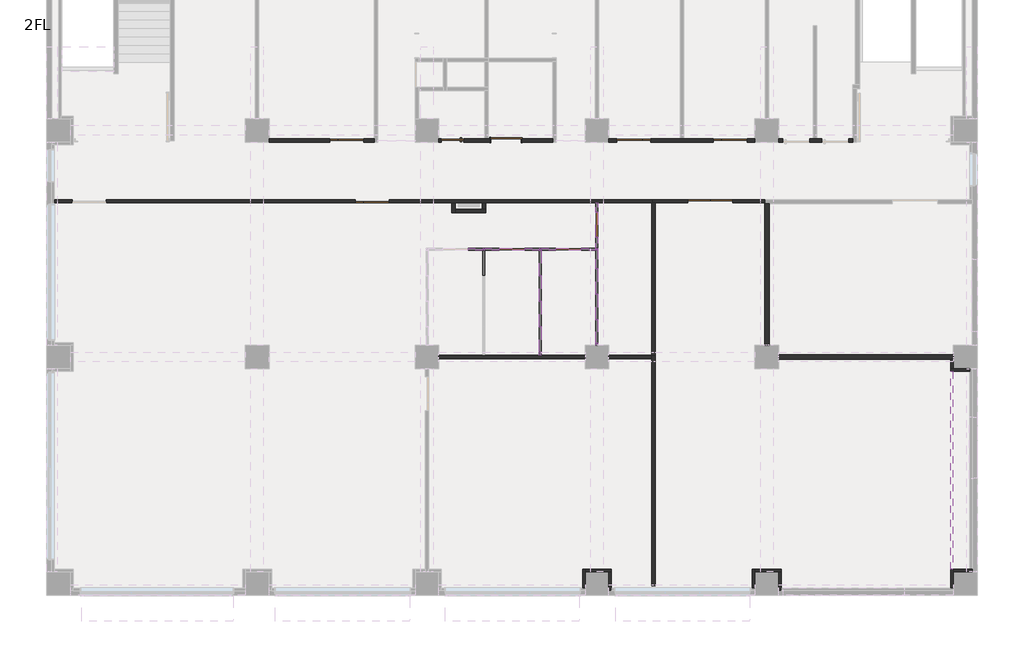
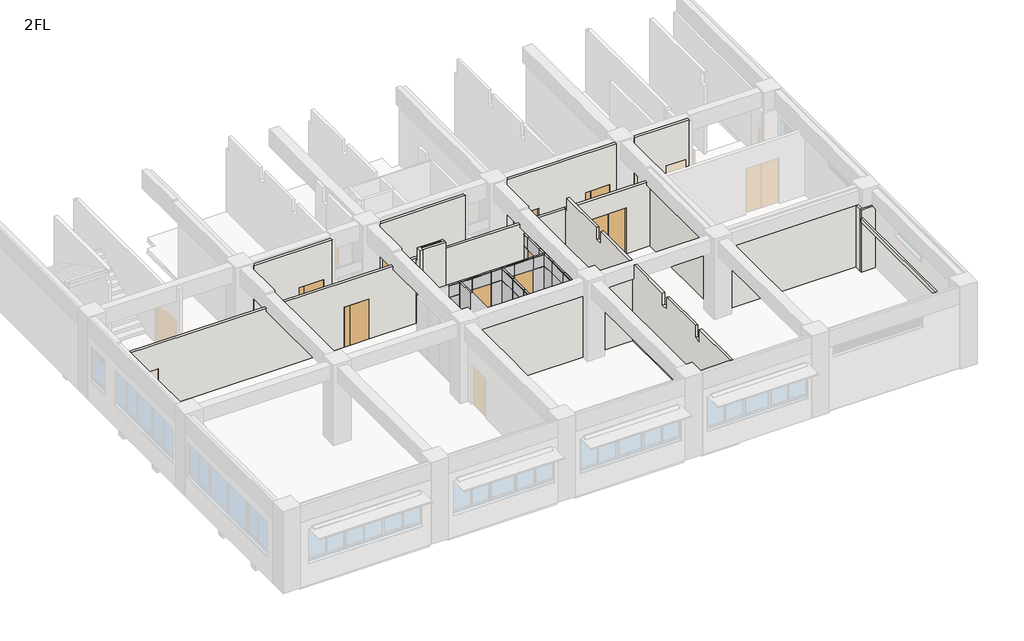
# One storey, part 2 of 7: 37 plates, 24 walls, 16 members, 10 doors.
"""IFC4 building model written with IfcOpenShell, lengths in millimetres."""

from ifc_helpers import new_model, si_unit, frame, origin, place, context, project, spatial, polyline, outline, extrude, faceted_brep, transform, mapped, element, save
from components import door_48d1ee04, door_18b0804b, door_c235f466, door_db44657f, door_7458d189, pt1_1e1990d0, member_b4131282, member_8fee23aa, plate_1920d3b0, plate_79e9bfaa, plate_647bdfd9, plate_5b77f55f, plate_b62a782f, plate_d5ff2d27, plate_b2ca1a00, plate_44eb6428, plate_b9e99dd6, plate_7cd72466, plate_84f50978, plate_53a28b3e, plate_90ae5f52, plate_9f777739, pt_5_5902302a, pt_5_33d2815e

model = new_model("IFC4")

# Units and contexts
model_context = context("Model", 3, world=origin())
ifc_project = project(units=[si_unit("LENGTHUNIT", "METRE", prefix="MILLI")], contexts=[model_context])

# Site, building, storey
site = spatial("IfcSite", under=ifc_project)
building = spatial("IfcBuilding", under=site)
storey = spatial("IfcBuildingStorey", under=building, Name="2FL", Elevation=4100.0)

# Doors
placement = place(None, origin())
door_shape = door_48d1ee04(model_context)
element("IfcDoor", 1, ObjectType="営_片開き扉 : LD11 850*2000", at=placement, inside=storey, context=model_context, shape_type="MappedRepresentation", body=[
    mapped(door_shape, transform((13900.0, 15640.0, 4100.0), x_axis=(-1.0, 0.0, 0.0), y_axis=(0.0, -1.0, 0.0), z_axis=(0.0, 0.0, 1.0))),
])
door_2_shape = door_18b0804b(model_context)
element("IfcDoor", 2, ObjectType="営_親子扉 : LD2 1200*2000", at=placement, inside=storey, context=model_context, shape_type="MappedRepresentation", body=[
    mapped(door_2_shape, transform((23700.0, 15640.0, 4100.0), x_axis=(1.0, 0.0, 0.0), y_axis=(0.0, 1.0, 0.0), z_axis=(0.0, 0.0, 1.0))),
])
door_3_shape = door_c235f466(model_context)
element("IfcDoor", 3, ObjectType="営_親子扉 : LD2 1200*2000", at=placement, inside=storey, context=model_context, shape_type="MappedRepresentation", body=[
    mapped(door_3_shape, transform((11065.0, 13500.0, 4100.0), x_axis=(1.0, 0.0, 0.0), y_axis=(0.0, 1.0, 0.0), z_axis=(0.0, 0.0, 1.0))),
])
element("IfcDoor", 4, ObjectType="営_親子扉 : LD2 1200*2000", at=placement, inside=storey, context=model_context, shape_type="MappedRepresentation", body=[
    mapped(door_3_shape, transform((20300.0, 15640.0, 4100.0), x_axis=(-1.0, 0.0, 0.0), y_axis=(0.0, -1.0, 0.0), z_axis=(0.0, 0.0, 1.0))),
])
element("IfcDoor", 5, ObjectType="営_親子扉 : LD2 1200*2000", at=placement, inside=storey, context=model_context, shape_type="MappedRepresentation", body=[
    mapped(door_2_shape, transform((10162.645491, 15640.0, 4100.0), x_axis=(1.0, 0.0, 0.0), y_axis=(0.0, 1.0, 0.0), z_axis=(0.0, 0.0, 1.0))),
])
door_4_shape = door_db44657f(model_context)
element("IfcDoor", 6, ObjectType="営_両開き扉 : SD3c 1600*2300 2", at=placement, inside=storey, context=model_context, shape_type="MappedRepresentation", body=[
    mapped(door_4_shape, transform((23000.0, 13500.0, 4100.0), x_axis=(-1.0, 0.0, 0.0), y_axis=(0.0, -1.0, 0.0), z_axis=(0.0, 0.0, 1.0))),
])
door_5_shape = door_7458d189(model_context)
element("IfcDoor", 7, ObjectType="営_引戸／引込戸 : LD1 960*2000", at=placement, inside=storey, context=model_context, shape_type="MappedRepresentation", body=[
    mapped(door_5_shape, transform((15800.0, 15640.0, 4100.0), x_axis=(1.0, 0.0, 0.0), y_axis=(0.0, 1.0, 0.0), z_axis=(0.0, 0.0, 1.0))),
])
pt1_shape = pt1_1e1990d0(model_context)
element("IfcDoor", 8, ObjectType="営_パーティションドア : PT3", at=placement, inside=storey, context=model_context, shape_type="MappedRepresentation", body=[
    mapped(pt1_shape, transform((16000.0, 11800.0, 4100.0), x_axis=(-1.0, 0.0, 0.0), y_axis=(0.0, -1.0, 0.0), z_axis=(0.0, 0.0, 1.0))),
])
element("IfcDoor", 9, ObjectType="営_パーティションドア : PT3", at=placement, inside=storey, context=model_context, shape_type="MappedRepresentation", body=[
    mapped(pt1_shape, transform((18000.0, 11800.0, 4100.0), x_axis=(-1.0, 0.0, 0.0), y_axis=(0.0, -1.0, 0.0), z_axis=(0.0, 0.0, 1.0))),
])
element("IfcDoor", 10, ObjectType="営_パーティションドア : PT4", at=placement, inside=storey, context=model_context, shape_type="MappedRepresentation", body=[
    mapped(pt1_shape, transform((19000.0, 12670.0, 4100.0), x_axis=(0.0, -1.0, 0.0), y_axis=(1.0, 0.0, 0.0), z_axis=(0.0, 0.0, 1.0))),
])

# Members
member_shape = member_b4131282(model_context)
element("IfcMember", 11, ObjectType="長方形マリオン : 70*70", at=placement, inside=storey, context=model_context, shape_type="MappedRepresentation", body=[
    mapped(member_shape, transform((17000.0, 11835.0, 4100.0), x_axis=(0.0, 1.0, 0.0), y_axis=(1.0, 0.0, 0.0), z_axis=(0.0, 0.0, -1.0))),
])
element("IfcMember", 12, ObjectType="長方形マリオン : 70*70", at=placement, inside=storey, context=model_context, shape_type="MappedRepresentation", body=[
    mapped(member_shape, transform((19035.0, 11800.0, 4100.0), x_axis=(1.0, 0.0, 0.0), y_axis=(0.0, -1.0, 0.0), z_axis=(0.0, 0.0, -1.0))),
])
element("IfcMember", 13, ObjectType="長方形マリオン : 70*70", at=placement, inside=storey, context=model_context, shape_type="MappedRepresentation", body=[
    mapped(member_shape, transform((15035.0, 11800.0, 4100.0), x_axis=(1.0, 0.0, 0.0), y_axis=(0.0, -1.0, 0.0), z_axis=(0.0, 0.0, -1.0))),
])
element("IfcMember", 14, ObjectType="長方形マリオン : 70*70", at=placement, inside=storey, context=model_context, shape_type="MappedRepresentation", body=[
    mapped(member_shape, transform((17035.0, 11800.0, 4100.0), x_axis=(1.0, 0.0, 0.0), y_axis=(0.0, -1.0, 0.0), z_axis=(0.0, 0.0, -1.0))),
])
member_2_shape = member_8fee23aa(model_context)
element("IfcMember", 15, ObjectType="長方形マリオン : 70*70", at=placement, inside=storey, context=model_context, shape_type="MappedRepresentation", body=[
    mapped(member_2_shape, transform((17000.0, 11835.0, 6200.0), x_axis=(0.0, 1.0, 0.0), y_axis=(1.0, 0.0, 0.0), z_axis=(0.0, 0.0, -1.0))),
])
element("IfcMember", 16, ObjectType="長方形マリオン : 70*70", at=placement, inside=storey, context=model_context, shape_type="MappedRepresentation", body=[
    mapped(member_2_shape, transform((19035.0, 11800.0, 6200.0), x_axis=(1.0, 0.0, 0.0), y_axis=(0.0, -1.0, 0.0), z_axis=(0.0, 0.0, -1.0))),
])
element("IfcMember", 17, ObjectType="長方形マリオン : 70*70", at=placement, inside=storey, context=model_context, shape_type="MappedRepresentation", body=[
    mapped(member_2_shape, transform((15035.0, 11800.0, 6200.0), x_axis=(1.0, 0.0, 0.0), y_axis=(0.0, -1.0, 0.0), z_axis=(0.0, 0.0, -1.0))),
])
element("IfcMember", 18, ObjectType="長方形マリオン : 70*70", at=placement, inside=storey, context=model_context, shape_type="MappedRepresentation", body=[
    mapped(member_2_shape, transform((17035.0, 11800.0, 6200.0), x_axis=(1.0, 0.0, 0.0), y_axis=(0.0, -1.0, 0.0), z_axis=(0.0, 0.0, -1.0))),
])
element("IfcMember", 19, ObjectType="長方形マリオン : 70*70", at=placement, inside=storey, context=model_context, shape_type="MappedRepresentation", body=[
    mapped(member_shape, transform((14965.0, 11800.0, 6200.0), x_axis=(-1.0, 0.0, 0.0), y_axis=(0.0, -1.0, 0.0), z_axis=(0.0, 0.0, 1.0))),
])
element("IfcMember", 20, ObjectType="長方形マリオン : 70*70", at=placement, inside=storey, context=model_context, shape_type="MappedRepresentation", body=[
    mapped(member_shape, transform((16965.0, 11800.0, 6200.0), x_axis=(-1.0, 0.0, 0.0), y_axis=(0.0, -1.0, 0.0), z_axis=(0.0, 0.0, 1.0))),
])
element("IfcMember", 21, ObjectType="長方形マリオン : 70*70", at=placement, inside=storey, context=model_context, shape_type="MappedRepresentation", body=[
    mapped(member_shape, transform((19000.0, 8420.0, 6200.0), x_axis=(0.0, -1.0, 0.0), y_axis=(1.0, 0.0, 0.0), z_axis=(0.0, 0.0, 1.0))),
])
element("IfcMember", 22, ObjectType="長方形マリオン : 70*70", at=placement, inside=storey, context=model_context, shape_type="MappedRepresentation", body=[
    mapped(member_2_shape, transform((14965.0, 11800.0, 6800.0), x_axis=(-1.0, 0.0, 0.0), y_axis=(0.0, -1.0, 0.0), z_axis=(0.0, 0.0, 1.0))),
])
element("IfcMember", 23, ObjectType="長方形マリオン : 70*70", at=placement, inside=storey, context=model_context, shape_type="MappedRepresentation", body=[
    mapped(member_2_shape, transform((16965.0, 11800.0, 6800.0), x_axis=(-1.0, 0.0, 0.0), y_axis=(0.0, -1.0, 0.0), z_axis=(0.0, 0.0, 1.0))),
])
element("IfcMember", 24, ObjectType="長方形マリオン : 70*70", at=placement, inside=storey, context=model_context, shape_type="MappedRepresentation", body=[
    mapped(member_2_shape, transform((19000.0, 8420.0, 6800.0), x_axis=(0.0, -1.0, 0.0), y_axis=(1.0, 0.0, 0.0), z_axis=(0.0, 0.0, 1.0))),
])
element("IfcMember", 25, ObjectType="長方形マリオン : 70*70", at=placement, inside=storey, context=model_context, shape_type="MappedRepresentation", body=[
    mapped(member_2_shape, transform((15000.0, 11835.0, 4100.0), x_axis=(0.0, 1.0, 0.0), y_axis=(1.0, 0.0, 0.0), z_axis=(0.0, 0.0, -1.0))),
])
element("IfcMember", 26, ObjectType="長方形マリオン : 70*70", at=placement, inside=storey, context=model_context, shape_type="MappedRepresentation", body=[
    mapped(member_shape, transform((15000.0, 11835.0, 4700.0), x_axis=(0.0, 1.0, 0.0), y_axis=(1.0, 0.0, 0.0), z_axis=(0.0, 0.0, -1.0))),
])

# Plates
plate_shape = plate_1920d3b0(model_context)
element("IfcPlate", 27, ObjectType="営_パーティションパネル_上部 : パーティションパネル_上部", at=placement, inside=storey, context=model_context, shape_type="MappedRepresentation", body=[
    mapped(plate_shape, transform((17000.0, 8112.4999998, 6200.0), x_axis=(0.0, 1.0, 0.0), y_axis=(-1.0, 0.0, 0.0), z_axis=(0.0, 0.0, 1.0))),
])
plate_2_shape = plate_79e9bfaa(model_context)
element("IfcPlate", 28, ObjectType="営_パーティションパネル_下部 : パーティションパネル_下部", at=placement, inside=storey, context=model_context, shape_type="MappedRepresentation", body=[
    mapped(plate_2_shape, transform((17000.0, 8112.4999998, 4100.0), x_axis=(0.0, 1.0, 0.0), y_axis=(-1.0, 0.0, 0.0), z_axis=(0.0, 0.0, 1.0))),
])
plate_3_shape = plate_647bdfd9(model_context)
element("IfcPlate", 29, ObjectType="営_パーティションパネル_下部 : パーティションパネル_下部", at=placement, inside=storey, context=model_context, shape_type="MappedRepresentation", body=[
    mapped(plate_3_shape, transform((19000.0, 13280.0, 4100.0), x_axis=(0.0, 1.0, 0.0), y_axis=(-1.0, 0.0, 0.0), z_axis=(0.0, 0.0, 1.0))),
])
plate_4_shape = plate_5b77f55f(model_context)
element("IfcPlate", 30, ObjectType="営_パーティションパネル_上部 : パーティションパネル_上部", at=placement, inside=storey, context=model_context, shape_type="MappedRepresentation", body=[
    mapped(plate_4_shape, transform((19000.0, 13280.0, 6200.0), x_axis=(0.0, 1.0, 0.0), y_axis=(-1.0, 0.0, 0.0), z_axis=(0.0, 0.0, 1.0))),
])
plate_5_shape = plate_b62a782f(model_context)
element("IfcPlate", 31, ObjectType="営_パーティションパネル_上部 : パーティションパネル_上部", at=placement, inside=storey, context=model_context, shape_type="MappedRepresentation", body=[
    mapped(plate_5_shape, transform((19000.0, 12010.0, 6200.0), x_axis=(0.0, 1.0, 0.0), y_axis=(-1.0, 0.0, 0.0), z_axis=(0.0, 0.0, 1.0))),
])
plate_6_shape = plate_d5ff2d27(model_context)
element("IfcPlate", 32, ObjectType="営_パーティションパネル_下部 : パーティションパネル_下部", at=placement, inside=storey, context=model_context, shape_type="MappedRepresentation", body=[
    mapped(plate_6_shape, transform((19000.0, 12010.0, 4100.0), x_axis=(0.0, 1.0, 0.0), y_axis=(-1.0, 0.0, 0.0), z_axis=(0.0, 0.0, 1.0))),
])
plate_7_shape = plate_b2ca1a00(model_context)
element("IfcPlate", 33, ObjectType="営_パーティションパネル_下部 : パーティションパネル_下部", at=placement, inside=storey, context=model_context, shape_type="MappedRepresentation", body=[
    mapped(plate_7_shape, transform((19000.0, 11455.0000002, 4100.0), x_axis=(0.0, 1.0, 0.0), y_axis=(-1.0, 0.0, 0.0), z_axis=(0.0, 0.0, 1.0))),
])
plate_8_shape = plate_44eb6428(model_context)
element("IfcPlate", 34, ObjectType="営_パーティションパネル_上部 : パーティションパネル_上部", at=placement, inside=storey, context=model_context, shape_type="MappedRepresentation", body=[
    mapped(plate_8_shape, transform((19000.0, 11455.0000002, 6200.0), x_axis=(0.0, 1.0, 0.0), y_axis=(-1.0, 0.0, 0.0), z_axis=(0.0, 0.0, 1.0))),
])
plate_9_shape = plate_b9e99dd6(model_context)
element("IfcPlate", 35, ObjectType="営_パーティションパネル_下部 : パーティションパネル_下部", at=placement, inside=storey, context=model_context, shape_type="MappedRepresentation", body=[
    mapped(plate_9_shape, transform((19000.0, 8900.0000002, 4100.0), x_axis=(0.0, 1.0, 0.0), y_axis=(-1.0, 0.0, 0.0), z_axis=(0.0, 0.0, 1.0))),
])
plate_10_shape = plate_7cd72466(model_context)
element("IfcPlate", 36, ObjectType="営_パーティションパネル_上部 : パーティションパネル_上部", at=placement, inside=storey, context=model_context, shape_type="MappedRepresentation", body=[
    mapped(plate_10_shape, transform((19000.0, 8900.0000002, 6200.0), x_axis=(0.0, 1.0, 0.0), y_axis=(-1.0, 0.0, 0.0), z_axis=(0.0, 0.0, 1.0))),
])
plate_11_shape = plate_84f50978(model_context)
element("IfcPlate", 37, ObjectType="営_パーティションパネル_下部 : パーティションパネル_下部", at=placement, inside=storey, context=model_context, shape_type="MappedRepresentation", body=[
    mapped(plate_11_shape, transform((19000.0, 9760.0000003, 4100.0), x_axis=(0.0, 1.0, 0.0), y_axis=(-1.0, 0.0, 0.0), z_axis=(0.0, 0.0, 1.0))),
])
element("IfcPlate", 38, ObjectType="営_パーティションパネル_下部 : パーティションパネル_下部", at=placement, inside=storey, context=model_context, shape_type="MappedRepresentation", body=[
    mapped(plate_11_shape, transform((19000.0, 10660.0000003, 4100.0), x_axis=(0.0, 1.0, 0.0), y_axis=(-1.0, 0.0, 0.0), z_axis=(0.0, 0.0, 1.0))),
])
element("IfcPlate", 39, ObjectType="営_パーティションパネル_下部 : パーティションパネル_下部", at=placement, inside=storey, context=model_context, shape_type="MappedRepresentation", body=[
    mapped(plate_11_shape, transform((17000.0, 8614.9999997, 4100.0), x_axis=(0.0, 1.0, 0.0), y_axis=(-1.0, 0.0, 0.0), z_axis=(0.0, 0.0, 1.0))),
])
element("IfcPlate", 40, ObjectType="営_パーティションパネル_下部 : パーティションパネル_下部", at=placement, inside=storey, context=model_context, shape_type="MappedRepresentation", body=[
    mapped(plate_11_shape, transform((17000.0, 10414.9999997, 4100.0), x_axis=(0.0, 1.0, 0.0), y_axis=(-1.0, 0.0, 0.0), z_axis=(0.0, 0.0, 1.0))),
])
element("IfcPlate", 41, ObjectType="営_パーティションパネル_下部 : パーティションパネル_下部", at=placement, inside=storey, context=model_context, shape_type="MappedRepresentation", body=[
    mapped(plate_11_shape, transform((17000.0, 11314.9999998, 4100.0), x_axis=(0.0, 1.0, 0.0), y_axis=(-1.0, 0.0, 0.0), z_axis=(0.0, 0.0, 1.0))),
])
element("IfcPlate", 42, ObjectType="営_パーティションパネル_下部 : パーティションパネル_下部", at=placement, inside=storey, context=model_context, shape_type="MappedRepresentation", body=[
    mapped(plate_11_shape, transform((15000.0, 11314.9999998, 4700.0), x_axis=(0.0, 1.0, 0.0), y_axis=(-1.0, 0.0, 0.0), z_axis=(0.0, 0.0, 1.0))),
])
plate_12_shape = plate_53a28b3e(model_context)
element("IfcPlate", 43, ObjectType="営_パーティションパネル_上部 : パーティションパネル_上部", at=placement, inside=storey, context=model_context, shape_type="MappedRepresentation", body=[
    mapped(plate_12_shape, transform((16000.0, 11800.0, 6200.0), x_axis=(1.0, 0.0, 0.0), y_axis=(0.0, 1.0, 0.0), z_axis=(0.0, 0.0, 1.0))),
])
element("IfcPlate", 44, ObjectType="営_パーティションパネル_上部 : パーティションパネル_上部", at=placement, inside=storey, context=model_context, shape_type="MappedRepresentation", body=[
    mapped(plate_12_shape, transform((18000.0, 11800.0, 6200.0), x_axis=(1.0, 0.0, 0.0), y_axis=(0.0, 1.0, 0.0), z_axis=(0.0, 0.0, 1.0))),
])
element("IfcPlate", 45, ObjectType="営_パーティションパネル_上部 : パーティションパネル_上部", at=placement, inside=storey, context=model_context, shape_type="MappedRepresentation", body=[
    mapped(plate_12_shape, transform((19000.0, 9760.0000003, 6200.0), x_axis=(0.0, 1.0, 0.0), y_axis=(-1.0, 0.0, 0.0), z_axis=(0.0, 0.0, 1.0))),
])
element("IfcPlate", 46, ObjectType="営_パーティションパネル_上部 : パーティションパネル_上部", at=placement, inside=storey, context=model_context, shape_type="MappedRepresentation", body=[
    mapped(plate_12_shape, transform((19000.0, 10660.0000003, 6200.0), x_axis=(0.0, 1.0, 0.0), y_axis=(-1.0, 0.0, 0.0), z_axis=(0.0, 0.0, 1.0))),
])
element("IfcPlate", 47, ObjectType="営_パーティションパネル_上部 : パーティションパネル_上部", at=placement, inside=storey, context=model_context, shape_type="MappedRepresentation", body=[
    mapped(plate_12_shape, transform((19000.0, 12670.0, 6200.0), x_axis=(0.0, 1.0, 0.0), y_axis=(-1.0, 0.0, 0.0), z_axis=(0.0, 0.0, 1.0))),
])
element("IfcPlate", 48, ObjectType="営_パーティションパネル_上部 : パーティションパネル_上部", at=placement, inside=storey, context=model_context, shape_type="MappedRepresentation", body=[
    mapped(plate_12_shape, transform((17000.0, 8614.9999997, 6200.0), x_axis=(0.0, 1.0, 0.0), y_axis=(-1.0, 0.0, 0.0), z_axis=(0.0, 0.0, 1.0))),
])
element("IfcPlate", 49, ObjectType="営_パーティションパネル_上部 : パーティションパネル_上部", at=placement, inside=storey, context=model_context, shape_type="MappedRepresentation", body=[
    mapped(plate_12_shape, transform((17000.0, 9514.9999997, 6200.0), x_axis=(0.0, 1.0, 0.0), y_axis=(-1.0, 0.0, 0.0), z_axis=(0.0, 0.0, 1.0))),
])
element("IfcPlate", 50, ObjectType="営_パーティションパネル_上部 : パーティションパネル_上部", at=placement, inside=storey, context=model_context, shape_type="MappedRepresentation", body=[
    mapped(plate_12_shape, transform((17000.0, 10414.9999997, 6200.0), x_axis=(0.0, 1.0, 0.0), y_axis=(-1.0, 0.0, 0.0), z_axis=(0.0, 0.0, 1.0))),
])
element("IfcPlate", 51, ObjectType="営_パーティションパネル_上部 : パーティションパネル_上部", at=placement, inside=storey, context=model_context, shape_type="MappedRepresentation", body=[
    mapped(plate_12_shape, transform((17000.0, 11314.9999998, 6200.0), x_axis=(0.0, 1.0, 0.0), y_axis=(-1.0, 0.0, 0.0), z_axis=(0.0, 0.0, 1.0))),
])
plate_13_shape = plate_90ae5f52(model_context)
element("IfcPlate", 52, ObjectType="営_パーティションパネル_下部 : パーティションパネル_下部", at=placement, inside=storey, context=model_context, shape_type="MappedRepresentation", body=[
    mapped(plate_13_shape, transform((16707.5, 11800.0, 4100.0), x_axis=(1.0, 0.0, 0.0), y_axis=(0.0, 1.0, 0.0), z_axis=(0.0, 0.0, 1.0))),
])
element("IfcPlate", 53, ObjectType="営_パーティションパネル_下部 : パーティションパネル_下部", at=placement, inside=storey, context=model_context, shape_type="MappedRepresentation", body=[
    mapped(plate_13_shape, transform((18707.5, 11800.0, 4100.0), x_axis=(1.0, 0.0, 0.0), y_axis=(0.0, 1.0, 0.0), z_axis=(0.0, 0.0, 1.0))),
])
element("IfcPlate", 54, ObjectType="営_パーティションパネル_下部 : パーティションパネル_下部", at=placement, inside=storey, context=model_context, shape_type="MappedRepresentation", body=[
    mapped(plate_13_shape, transform((15292.5, 11800.0, 4100.0), x_axis=(1.0, 0.0, 0.0), y_axis=(0.0, 1.0, 0.0), z_axis=(0.0, 0.0, 1.0))),
])
element("IfcPlate", 55, ObjectType="営_パーティションパネル_下部 : パーティションパネル_下部", at=placement, inside=storey, context=model_context, shape_type="MappedRepresentation", body=[
    mapped(plate_13_shape, transform((17292.5, 11800.0, 4100.0), x_axis=(1.0, 0.0, 0.0), y_axis=(0.0, 1.0, 0.0), z_axis=(0.0, 0.0, 1.0))),
])
element("IfcPlate", 56, ObjectType="営_パーティションパネル_下部 : パーティションパネル_下部", at=placement, inside=storey, context=model_context, shape_type="MappedRepresentation", body=[
    mapped(plate_13_shape, transform((14707.5, 11800.0, 4100.0), x_axis=(1.0, 0.0, 0.0), y_axis=(0.0, 1.0, 0.0), z_axis=(0.0, 0.0, 1.0))),
])
plate_14_shape = plate_9f777739(model_context)
element("IfcPlate", 57, ObjectType="営_パーティションパネル_上部 : パーティションパネル_上部", at=placement, inside=storey, context=model_context, shape_type="MappedRepresentation", body=[
    mapped(plate_14_shape, transform((16707.5, 11800.0, 6200.0), x_axis=(1.0, 0.0, 0.0), y_axis=(0.0, 1.0, 0.0), z_axis=(0.0, 0.0, 1.0))),
])
element("IfcPlate", 58, ObjectType="営_パーティションパネル_上部 : パーティションパネル_上部", at=placement, inside=storey, context=model_context, shape_type="MappedRepresentation", body=[
    mapped(plate_14_shape, transform((18707.5, 11800.0, 6200.0), x_axis=(1.0, 0.0, 0.0), y_axis=(0.0, 1.0, 0.0), z_axis=(0.0, 0.0, 1.0))),
])
element("IfcPlate", 59, ObjectType="営_パーティションパネル_上部 : パーティションパネル_上部", at=placement, inside=storey, context=model_context, shape_type="MappedRepresentation", body=[
    mapped(plate_14_shape, transform((15292.5, 11800.0, 6200.0), x_axis=(1.0, 0.0, 0.0), y_axis=(0.0, 1.0, 0.0), z_axis=(0.0, 0.0, 1.0))),
])
element("IfcPlate", 60, ObjectType="営_パーティションパネル_上部 : パーティションパネル_上部", at=placement, inside=storey, context=model_context, shape_type="MappedRepresentation", body=[
    mapped(plate_14_shape, transform((17292.5, 11800.0, 6200.0), x_axis=(1.0, 0.0, 0.0), y_axis=(0.0, 1.0, 0.0), z_axis=(0.0, 0.0, 1.0))),
])
element("IfcPlate", 61, ObjectType="営_パーティションパネル_上部 : パーティションパネル_上部", at=placement, inside=storey, context=model_context, shape_type="MappedRepresentation", body=[
    mapped(plate_14_shape, transform((14707.5, 11800.0, 6200.0), x_axis=(1.0, 0.0, 0.0), y_axis=(0.0, 1.0, 0.0), z_axis=(0.0, 0.0, 1.0))),
])
pt_5_shape = pt_5_5902302a(model_context)
element("IfcPlate", 62, ObjectType="営_パーティションパネル_下部 : パーティションパネル_下部", at=placement, inside=storey, context=model_context, shape_type="MappedRepresentation", body=[
    mapped(pt_5_shape, transform((15000.0, 11314.9999998, 4100.0), x_axis=(0.0, 1.0, 0.0), y_axis=(-1.0, 0.0, 0.0), z_axis=(0.0, 0.0, 1.0))),
])
pt_5_2_shape = pt_5_33d2815e(model_context)
element("IfcPlate", 63, ObjectType="営_パーティションパネル_下部 : PT-5", at=placement, inside=storey, context=model_context, shape_type="MappedRepresentation", body=[
    mapped(pt_5_2_shape, transform((17000.0, 9514.9999997, 4100.0), x_axis=(0.0, 1.0, 0.0), y_axis=(-1.0, 0.0, 0.0), z_axis=(0.0, 0.0, 1.0))),
])

# Walls
element("IfcWall", 64, ObjectType="(内壁)W3", at=placement, inside=storey, context=model_context, shape_type="Brep", body=[
    faceted_brep([(20950.0, 13440.0, 4100.0), (20950.0, 13440.0, 7350.0), (20940.0, 13440.0, 7350.0), (19225.0, 13440.0, 7350.0), (19225.0, 13440.0, 7200.0), (18775.0, 13440.0, 7200.0), (18775.0, 13440.0, 7350.0), (15070.0, 13440.0, 7350.0), (14950.0, 13440.0, 7350.0), (13990.0, 13440.0, 7350.0), (13870.0, 13440.0, 7350.0), (13225.0, 13440.0, 7350.0), (13225.0, 13440.0, 7200.0), (12775.0, 13440.0, 7200.0), (12775.0, 13440.0, 7350.0), (7225.0, 13440.0, 7350.0), (7225.0, 13440.0, 7200.0), (6775.0, 13440.0, 7200.0), (6775.0, 13440.0, 7350.0), (-50.0, 13440.0, 7350.0), (-50.0, 13440.0, 7200.0), (-250.0, 13440.0, 7200.0), (-250.0, 13440.0, 4100.0), (465.0, 13440.0, 4100.0), (465.0, 13440.0, 6100.0), (1665.0, 13440.0, 6100.0), (1665.0, 13440.0, 4100.0), (10465.0, 13440.0, 4100.0), (10465.0, 13440.0, 6100.0), (11665.0, 13440.0, 6100.0), (11665.0, 13440.0, 4100.0), (13870.0, 13440.0, 4100.0), (13990.0, 13440.0, 4100.0), (14950.0, 13440.0, 4100.0), (15070.0, 13440.0, 4100.0), (20940.0, 13440.0, 4100.0), (20950.0, 13560.0, 7350.0), (20950.0, 13560.0, 4100.0), (11665.0, 13560.0, 4100.0), (11665.0, 13560.0, 6100.0), (10465.0, 13560.0, 6100.0), (10465.0, 13560.0, 4100.0), (1665.0, 13560.0, 4100.0), (1665.0, 13560.0, 6100.0), (465.0, 13560.0, 6100.0), (465.0, 13560.0, 4100.0), (-250.0, 13560.0, 4100.0), (-250.0, 13560.0, 7200.0), (-50.0, 13560.0, 7200.0), (-50.0, 13560.0, 7350.0), (6775.0, 13560.0, 7350.0), (6775.0, 13560.0, 7200.0), (7225.0, 13560.0, 7200.0), (7225.0, 13560.0, 7350.0), (12775.0, 13560.0, 7350.0), (12775.0, 13560.0, 7200.0), (13225.0, 13560.0, 7200.0), (13225.0, 13560.0, 7350.0), (18775.0, 13560.0, 7350.0), (18775.0, 13560.0, 7200.0), (19225.0, 13560.0, 7200.0), (19225.0, 13560.0, 7350.0)], [[[0, 1, 2, 3, 4, 5, 6, 7, 8, 9, 10, 11, 12, 13, 14, 15, 16, 17, 18, 19, 20, 21, 22, 23, 24, 25, 26, 27, 28, 29, 30, 31, 32, 33, 34, 35]], [[36, 37, 38, 39, 40, 41, 42, 43, 44, 45, 46, 47, 48, 49, 50, 51, 52, 53, 54, 55, 56, 57, 58, 59, 60, 61]], [[22, 46, 45, 23]], [[26, 42, 41, 27]], [[37, 0, 35, 34, 33, 32, 31, 30, 38]], [[1, 0, 37, 36]], [[1, 36, 61, 3, 2]], [[49, 19, 18, 50]], [[53, 15, 14, 54]], [[57, 11, 10, 9, 8, 7, 6, 58]], [[46, 22, 21, 47]], [[26, 25, 43, 42]], [[24, 23, 45, 44]], [[25, 24, 44, 43]], [[41, 40, 28, 27]], [[39, 38, 30, 29]], [[40, 39, 29, 28]], [[48, 20, 19, 49]], [[20, 48, 47, 21]], [[52, 16, 15, 53]], [[16, 52, 51, 17]], [[17, 51, 50, 18]], [[56, 12, 11, 57]], [[12, 56, 55, 13]], [[13, 55, 54, 14]], [[60, 4, 3, 61]], [[4, 60, 59, 5]], [[5, 59, 58, 6]]]),
])
element("IfcWall", 65, ObjectType="(内壁)150_RC", at=placement, inside=storey, context=model_context, shape_type="SweptSolid", body=[
    extrude(outline(polyline([(24925.0, 13410.0), (25075.0, 13410.0), (25075.0, 8420.0), (24925.0, 8420.0), (24925.0, 13410.0)])), frame((0.0, 0.0, 4100.0), z_axis=(0.0, 0.0, 1.0), x_axis=(1.0, 0.0, 0.0)), (0.0, 0.0, 1.0), 3100.0),
])
element("IfcWall", 66, ObjectType="(内壁)150_RC", at=placement, inside=storey, context=model_context, shape_type="Brep", body=[
    faceted_brep([(25420.0, 7925.0, 4100.0), (31580.0, 7925.0, 4100.0), (31580.0, 7925.0, 7200.0), (31580.0, 7925.0, 7250.0), (25420.0, 7925.0, 7250.0), (31580.0, 8075.0, 4100.0), (25420.0, 8075.0, 4100.0), (25420.0, 8075.0, 7250.0), (31580.0, 8075.0, 7250.0)], [[[0, 1, 2, 3, 4]], [[5, 6, 7, 8]], [[0, 6, 5, 1]], [[6, 0, 4, 7]], [[1, 5, 8, 3, 2]], [[4, 3, 8, 7]]]),
])
element("IfcWall", 67, ObjectType="(内壁)W3", at=placement, inside=storey, context=model_context, shape_type="Brep", body=[
    faceted_brep([(20900.0, 15700.0, 4100.0), (20900.0, 15700.0, 6100.0), (19700.0, 15700.0, 6100.0), (19700.0, 15700.0, 4100.0), (19420.0, 15700.0, 4100.0), (19420.0, 15700.0, 8040.0), (21940.0, 15700.0, 8040.0), (22060.0, 15700.0, 8040.0), (24580.0, 15700.0, 8040.0), (24580.0, 15700.0, 4100.0), (24300.0, 15700.0, 4100.0), (24300.0, 15700.0, 6100.0), (23100.0, 15700.0, 6100.0), (23100.0, 15700.0, 4100.0), (22060.0, 15700.0, 4100.0), (21940.0, 15700.0, 4100.0), (20900.0, 15580.0, 6100.0), (20900.0, 15580.0, 4100.0), (23100.0, 15580.0, 4100.0), (23100.0, 15580.0, 6100.0), (24300.0, 15580.0, 6100.0), (24300.0, 15580.0, 4100.0), (24580.0, 15580.0, 4100.0), (24580.0, 15580.0, 8040.0), (19420.0, 15580.0, 8040.0), (19420.0, 15580.0, 4100.0), (19700.0, 15580.0, 4100.0), (19700.0, 15580.0, 6100.0), (19420.0, 15640.0, 8040.0), (24580.0, 15640.0, 8040.0)], [[[0, 1, 2, 3, 4, 5, 6, 7, 8, 9, 10, 11, 12, 13, 14, 15]], [[16, 17, 18, 19, 20, 21, 22, 23, 24, 25, 26, 27]], [[17, 0, 15, 14, 13, 18]], [[3, 26, 25, 4]], [[21, 10, 9, 22]], [[5, 28, 24, 23, 29, 8, 7, 6]], [[17, 16, 1, 0]], [[27, 26, 3, 2]], [[16, 27, 2, 1]], [[13, 12, 19, 18]], [[11, 10, 21, 20]], [[12, 11, 20, 19]], [[5, 4, 25, 24, 28]], [[9, 8, 29, 23, 22]]]),
    faceted_brep([(25555.0, 15700.0, 6100.0), (25555.0, 15700.0, 4100.0), (25420.0, 15700.0, 4100.0), (25420.0, 15700.0, 8040.0), (28025.0, 15700.0, 8040.0), (28025.0, 15700.0, 4100.0), (27885.0, 15700.0, 4100.0), (27885.0, 15700.0, 6100.0), (26935.0, 15700.0, 6100.0), (26935.0, 15700.0, 4100.0), (26760.0, 15700.0, 4100.0), (26640.0, 15700.0, 4100.0), (26505.0, 15700.0, 4100.0), (26505.0, 15700.0, 6100.0), (27885.0, 15580.0, 4100.0), (28025.0, 15580.0, 4100.0), (28025.0, 15580.0, 7950.0), (28025.0, 15580.0, 8040.0), (25420.0, 15580.0, 8040.0), (25420.0, 15580.0, 4100.0), (25555.0, 15580.0, 4100.0), (25555.0, 15580.0, 6100.0), (26505.0, 15580.0, 6100.0), (26505.0, 15580.0, 4100.0), (26935.0, 15580.0, 4100.0), (26935.0, 15580.0, 6100.0), (27885.0, 15580.0, 6100.0), (25420.0, 15640.0, 8040.0)], [[[0, 1, 2, 3, 4, 5, 6, 7, 8, 9, 10, 11, 12, 13]], [[14, 15, 16, 17, 18, 19, 20, 21, 22, 23, 24, 25, 26]], [[15, 14, 6, 5]], [[1, 20, 19, 2]], [[23, 12, 11, 10, 9, 24]], [[17, 4, 3, 27, 18]], [[1, 0, 21, 20]], [[13, 12, 23, 22]], [[0, 13, 22, 21]], [[3, 2, 19, 18, 27]], [[8, 25, 24, 9]], [[25, 8, 7, 26]], [[26, 7, 6, 14]], [[5, 4, 17, 16, 15]]]),
])
element("IfcWall", 68, ObjectType="(内壁)W4", at=placement, inside=storey, context=model_context, shape_type="Brep", body=[
    faceted_brep([(19420.0, 7940.0, 4100.0), (20940.0, 7940.0, 4100.0), (20940.0, 7940.0, 7250.0), (19420.0, 7940.0, 7250.0), (20940.0, 8060.0, 4100.0), (19420.0, 8060.0, 4100.0), (19420.0, 8060.0, 7250.0), (20940.0, 8060.0, 7250.0), (20940.0, 8050.0, 4100.0), (20940.0, 8050.0, 7250.0)], [[[0, 1, 2, 3]], [[4, 5, 6, 7]], [[4, 8, 1, 0, 5]], [[1, 8, 4, 7, 9, 2]], [[5, 0, 3, 6]], [[3, 2, 9, 7, 6]]]),
    faceted_brep([(13420.0, 7940.0, 4100.0), (18580.0, 7940.0, 4100.0), (18580.0, 7940.0, 7250.0), (13420.0, 7940.0, 7250.0), (18580.0, 8060.0, 4100.0), (13420.0, 8060.0, 4100.0), (13420.0, 8060.0, 7250.0), (18580.0, 8060.0, 7250.0)], [[[0, 1, 2, 3]], [[4, 5, 6, 7]], [[0, 5, 4, 1]], [[5, 0, 3, 6]], [[1, 4, 7, 2]], [[3, 2, 7, 6]]]),
])
element("IfcWall", 69, ObjectType="(内壁)W1", at=placement, inside=storey, context=model_context, shape_type="Brep", body=[
    faceted_brep([(20940.0, 13440.0, 4100.0), (20940.0, 8060.0, 4100.0), (20940.0, 8050.0, 4100.0), (20940.0, 8050.0, 7250.0), (20940.0, 8060.0, 7250.0), (20940.0, 8175.0, 7250.0), (20940.0, 8175.0, 7950.0), (20940.0, 10575.0, 7950.0), (20940.0, 10575.0, 7350.0), (20940.0, 10925.0, 7350.0), (20940.0, 10925.0, 7950.0), (20940.0, 13325.0, 7950.0), (20940.0, 13325.0, 7350.0), (20940.0, 13440.0, 7350.0), (21060.0, 8050.0, 4100.0), (21060.0, 13440.0, 4100.0), (21060.0, 13440.0, 7350.0), (21060.0, 13325.0, 7350.0), (21060.0, 13325.0, 7950.0), (21060.0, 10925.0, 7950.0), (21060.0, 10925.0, 7350.0), (21060.0, 10575.0, 7350.0), (21060.0, 10575.0, 7950.0), (21060.0, 8175.0, 7950.0), (21060.0, 8175.0, 7250.0), (21060.0, 8050.0, 7250.0), (20950.0, 13440.0, 4100.0), (20950.0, 13440.0, 7350.0)], [[[0, 1, 2, 3, 4, 5, 6, 7, 8, 9, 10, 11, 12, 13]], [[14, 15, 16, 17, 18, 19, 20, 21, 22, 23, 24, 25]], [[2, 1, 0, 26, 15, 14]], [[2, 14, 25, 3]], [[6, 23, 22, 7]], [[10, 19, 18, 11]], [[24, 5, 4, 3, 25]], [[5, 24, 23, 6]], [[15, 26, 0, 13, 27, 16]], [[21, 8, 7, 22]], [[8, 21, 20, 9]], [[9, 20, 19, 10]], [[17, 12, 11, 18]], [[12, 17, 16, 27, 13]]]),
])
element("IfcWall", 70, ObjectType="(内壁)W4", at=placement, inside=storey, context=model_context, shape_type="SweptSolid", body=[
    extrude(outline(polyline([(6100.0, 9562.645491), (6100.0, 10762.645491), (4100.0, 10762.645491), (4100.0, 11140.0), (7950.0, 11140.0), (7950.0, 7420.0), (4100.0, 7420.0), (4100.0, 9562.645491), (6100.0, 9562.645491)])), frame((0.0, 15580.0, 0.0), z_axis=(0.0, 1.0, 0.0), x_axis=(0.0, 0.0, 1.0)), (0.0, 0.0, 1.0), 120.0),
])
element("IfcWall", 71, ObjectType="(内壁)W4", at=placement, inside=storey, context=model_context, shape_type="Brep", body=[
    faceted_brep([(14300.0, 15700.0, 4100.0), (14300.0, 15700.0, 6100.0), (13500.0, 15700.0, 6100.0), (13500.0, 15700.0, 4100.0), (13420.0, 15700.0, 4100.0), (13420.0, 15700.0, 7950.0), (15040.0, 15700.0, 7950.0), (15160.0, 15700.0, 7950.0), (17440.0, 15700.0, 7950.0), (17440.0, 15700.0, 4100.0), (16355.0, 15700.0, 4100.0), (16355.0, 15700.0, 6125.0), (15220.0, 15700.0, 6125.0), (15220.0, 15700.0, 4100.0), (15160.0, 15700.0, 4100.0), (15040.0, 15700.0, 4100.0), (14300.0, 15580.0, 6100.0), (14300.0, 15580.0, 4100.0), (15220.0, 15580.0, 4100.0), (15220.0, 15580.0, 6125.0), (16355.0, 15580.0, 6125.0), (16355.0, 15580.0, 4100.0), (17440.0, 15580.0, 4100.0), (17440.0, 15580.0, 7950.0), (13420.0, 15580.0, 7950.0), (13420.0, 15580.0, 4100.0), (13500.0, 15580.0, 4100.0), (13500.0, 15580.0, 6100.0)], [[[0, 1, 2, 3, 4, 5, 6, 7, 8, 9, 10, 11, 12, 13, 14, 15]], [[16, 17, 18, 19, 20, 21, 22, 23, 24, 25, 26, 27]], [[17, 0, 15, 14, 13, 18]], [[3, 26, 25, 4]], [[22, 21, 10, 9]], [[23, 8, 7, 6, 5, 24]], [[17, 16, 1, 0]], [[27, 26, 3, 2]], [[16, 27, 2, 1]], [[12, 19, 18, 13]], [[20, 11, 10, 21]], [[19, 12, 11, 20]], [[5, 4, 25, 24]], [[9, 8, 23, 22]]]),
])
element("IfcWall", 72, ObjectType="(内壁)W2", at=placement, inside=storey, context=model_context, shape_type="Brep", body=[
    faceted_brep([(20940.0, 8050.0, 4100.0), (20940.0, 7940.0, 4100.0), (20940.0, -70.0, 4100.0), (20940.0, -70.0, 7250.0), (20940.0, -50.0, 7250.0), (20940.0, -50.0, 7950.0), (20940.0, 2485.0, 7950.0), (20940.0, 2485.0, 7350.0), (20940.0, 2835.0, 7350.0), (20940.0, 2835.0, 7950.0), (20940.0, 5155.0, 7950.0), (20940.0, 5155.0, 7350.0), (20940.0, 5505.0, 7350.0), (20940.0, 5505.0, 7950.0), (20940.0, 7825.0, 7950.0), (20940.0, 7825.0, 7250.0), (20940.0, 7940.0, 7250.0), (20940.0, 8050.0, 7250.0), (21060.0, -70.0, 4100.0), (21060.0, 8050.0, 4100.0), (21060.0, 8050.0, 7250.0), (21060.0, 7825.0, 7250.0), (21060.0, 7825.0, 7950.0), (21060.0, 5505.0, 7950.0), (21060.0, 5505.0, 7350.0), (21060.0, 5155.0, 7350.0), (21060.0, 5155.0, 7950.0), (21060.0, 2835.0, 7950.0), (21060.0, 2835.0, 7350.0), (21060.0, 2485.0, 7350.0), (21060.0, 2485.0, 7950.0), (21060.0, -50.0, 7950.0), (21060.0, -50.0, 7250.0), (21060.0, -70.0, 7250.0)], [[[0, 1, 2, 3, 4, 5, 6, 7, 8, 9, 10, 11, 12, 13, 14, 15, 16, 17]], [[18, 19, 20, 21, 22, 23, 24, 25, 26, 27, 28, 29, 30, 31, 32, 33]], [[2, 1, 0, 19, 18]], [[2, 18, 33, 3]], [[5, 31, 30, 6]], [[22, 14, 13, 23]], [[9, 27, 26, 10]], [[19, 0, 17, 20]], [[32, 4, 3, 33]], [[4, 32, 31, 5]], [[21, 15, 14, 22]], [[15, 21, 20, 17, 16]], [[29, 7, 6, 30]], [[7, 29, 28, 8]], [[8, 28, 27, 9]], [[25, 11, 10, 26]], [[11, 25, 24, 12]], [[12, 24, 23, 13]]]),
])
element("IfcWall", 73, ObjectType="(内壁)W1", at=placement, inside=storey, context=model_context, shape_type="Brep", body=[
    faceted_brep([(22200.0, 13440.0, 6400.0), (23800.0, 13440.0, 6400.0), (23800.0, 13440.0, 4100.0), (24925.0, 13440.0, 4100.0), (24925.0, 13440.0, 7200.0), (24775.0, 13440.0, 7200.0), (24775.0, 13440.0, 7350.0), (21060.0, 13440.0, 7350.0), (20950.0, 13440.0, 7350.0), (20950.0, 13440.0, 4100.0), (21060.0, 13440.0, 4100.0), (22200.0, 13440.0, 4100.0), (23800.0, 13560.0, 6400.0), (22200.0, 13560.0, 6400.0), (22200.0, 13560.0, 4100.0), (20950.0, 13560.0, 4100.0), (20950.0, 13560.0, 7350.0), (24775.0, 13560.0, 7350.0), (24775.0, 13560.0, 7200.0), (24925.0, 13560.0, 7200.0), (24925.0, 13560.0, 4100.0), (23800.0, 13560.0, 4100.0)], [[[0, 1, 2, 3, 4, 5, 6, 7, 8, 9, 10, 11]], [[12, 13, 14, 15, 16, 17, 18, 19, 20, 21]], [[20, 3, 2, 21]], [[9, 15, 14, 11, 10]], [[15, 9, 8, 16]], [[3, 20, 19, 4]], [[1, 0, 13, 12]], [[0, 11, 14, 13]], [[2, 1, 12, 21]], [[18, 5, 4, 19]], [[5, 18, 17, 6]], [[8, 7, 6, 17, 16]]]),
])
element("IfcWall", 74, ObjectType="(内壁)W5", at=placement, inside=storey, context=model_context, shape_type="Brep", body=[
    faceted_brep([(18580.0, -160.0, 4000.0), (18580.0, 420.0, 4000.0), (18580.0, 510.0, 4000.0), (18580.0, 510.0, 7200.0), (18580.0, 420.0, 7200.0), (18580.0, -160.0, 7200.0), (18490.0, -160.0, 4000.0), (18490.0, -160.0, 7200.0), (18490.0, 510.0, 7200.0), (18490.0, 510.0, 4000.0)], [[[0, 1, 2, 3, 4, 5]], [[6, 7, 8, 9]], [[2, 1, 0, 6, 9]], [[5, 4, 3, 8, 7]], [[0, 5, 7, 6]], [[3, 2, 9, 8]]]),
])
element("IfcWall", 75, ObjectType="(内壁)W5", at=placement, inside=storey, context=model_context, shape_type="Brep", body=[
    faceted_brep([(18580.0, 420.0, 4000.0), (19420.0, 420.0, 4000.0), (19510.0, 420.0, 4000.0), (19510.0, 420.0, 7200.0), (19420.0, 420.0, 7200.0), (18580.0, 420.0, 7200.0), (18580.0, 510.0, 4000.0), (18580.0, 510.0, 7200.0), (19510.0, 510.0, 7200.0), (19510.0, 510.0, 4000.0)], [[[0, 1, 2, 3, 4, 5]], [[6, 7, 8, 9]], [[2, 1, 0, 6, 9]], [[5, 4, 3, 8, 7]], [[0, 5, 7, 6]], [[3, 2, 9, 8]]]),
])
element("IfcWall", 76, ObjectType="(内壁)W5", at=placement, inside=storey, context=model_context, shape_type="Brep", body=[
    faceted_brep([(19420.0, 420.0, 4000.0), (19420.0, -250.0, 4000.0), (19420.0, -250.0, 7200.0), (19420.0, 420.0, 7200.0), (19510.0, 420.0, 4000.0), (19510.0, 420.0, 7200.0), (19510.0, -160.0, 7200.0), (19510.0, -250.0, 7200.0), (19510.0, -250.0, 4000.0), (19510.0, -160.0, 4000.0)], [[[0, 1, 2, 3]], [[4, 5, 6, 7, 8, 9]], [[1, 0, 4, 9, 8]], [[3, 2, 7, 6, 5]], [[0, 3, 5, 4]], [[2, 1, 8, 7]]]),
])
element("IfcWall", 77, ObjectType="(内壁)W5", at=placement, inside=storey, context=model_context, shape_type="Brep", body=[
    faceted_brep([(24580.0, -160.0, 4000.0), (24580.0, 420.0, 4000.0), (24580.0, 510.0, 4000.0), (24580.0, 510.0, 7200.0), (24580.0, 420.0, 7200.0), (24580.0, -160.0, 7200.0), (24490.0, -160.0, 4000.0), (24490.0, -160.0, 7200.0), (24490.0, 510.0, 7200.0), (24490.0, 510.0, 4000.0)], [[[0, 1, 2, 3, 4, 5]], [[6, 7, 8, 9]], [[2, 1, 0, 6, 9]], [[5, 4, 3, 8, 7]], [[0, 5, 7, 6]], [[3, 2, 9, 8]]]),
])
element("IfcWall", 78, ObjectType="(内壁)W5", at=placement, inside=storey, context=model_context, shape_type="Brep", body=[
    faceted_brep([(24580.0, 420.0, 4000.0), (25420.0, 420.0, 4000.0), (25510.0, 420.0, 4000.0), (25510.0, 420.0, 7200.0), (25420.0, 420.0, 7200.0), (24580.0, 420.0, 7200.0), (24580.0, 510.0, 4000.0), (24580.0, 510.0, 7200.0), (25510.0, 510.0, 7200.0), (25510.0, 510.0, 4000.0)], [[[0, 1, 2, 3, 4, 5]], [[6, 7, 8, 9]], [[2, 1, 0, 6, 9]], [[5, 4, 3, 8, 7]], [[0, 5, 7, 6]], [[3, 2, 9, 8]]]),
])
element("IfcWall", 79, ObjectType="(内壁)W5", at=placement, inside=storey, context=model_context, shape_type="Brep", body=[
    faceted_brep([(25420.0, 420.0, 4000.0), (25420.0, -250.0, 4000.0), (25420.0, -250.0, 7200.0), (25420.0, 420.0, 7200.0), (25510.0, 420.0, 4000.0), (25510.0, 420.0, 7200.0), (25510.0, -160.0, 7200.0), (25510.0, -250.0, 7200.0), (25510.0, -250.0, 4000.0), (25510.0, -160.0, 4000.0)], [[[0, 1, 2, 3]], [[4, 5, 6, 7, 8, 9]], [[1, 0, 4, 9, 8]], [[3, 2, 7, 6, 5]], [[0, 3, 5, 4]], [[2, 1, 8, 7]]]),
])
element("IfcWall", 80, ObjectType="(内壁)W5", at=placement, inside=storey, context=model_context, shape_type="Brep", body=[
    faceted_brep([(31580.0, 510.0, 7200.0), (31580.0, 420.0, 7200.0), (31580.0, -160.0, 7200.0), (31580.0, -160.0, 4090.0), (31580.0, -50.0, 4090.0), (31580.0, -50.0, 4000.0), (31580.0, 420.0, 4000.0), (31580.0, 510.0, 4000.0), (31490.0, -160.0, 7200.0), (31490.0, 510.0, 7200.0), (31490.0, 510.0, 4000.0), (31490.0, -50.0, 4000.0), (31490.0, -50.0, 4090.0), (31490.0, -160.0, 4090.0)], [[[0, 1, 2, 3, 4, 5, 6, 7]], [[8, 9, 10, 11, 12, 13]], [[10, 7, 6, 5, 11]], [[2, 1, 0, 9, 8]], [[2, 8, 13, 3]], [[4, 12, 11, 5]], [[12, 4, 3, 13]], [[7, 10, 9, 0]]]),
])
element("IfcWall", 81, ObjectType="(内壁)W5", at=placement, inside=storey, context=model_context, shape_type="Brep", body=[
    faceted_brep([(31580.0, 420.0, 4000.0), (32250.0, 420.0, 4000.0), (32250.0, 420.0, 7200.0), (31580.0, 420.0, 7200.0), (31580.0, 510.0, 4000.0), (31580.0, 510.0, 7200.0), (32160.0, 510.0, 7200.0), (32250.0, 510.0, 7200.0), (32250.0, 510.0, 4090.0), (32250.0, 510.0, 4000.0)], [[[0, 1, 2, 3]], [[4, 5, 6, 7, 8, 9]], [[1, 0, 4, 9]], [[3, 2, 7, 6, 5]], [[0, 3, 5, 4]], [[1, 9, 8, 7, 2]]]),
])
element("IfcWall", 82, ObjectType="(内壁)W5", at=placement, inside=storey, context=model_context, shape_type="Brep", body=[
    faceted_brep([(32160.0, 7580.0, 4000.0), (31580.0, 7580.0, 4000.0), (31490.0, 7580.0, 4000.0), (31490.0, 7580.0, 7200.0), (31580.0, 7580.0, 7200.0), (32160.0, 7580.0, 7200.0), (32160.0, 7580.0, 4090.0), (32160.0, 7490.0, 4000.0), (32160.0, 7490.0, 7200.0), (31490.0, 7490.0, 7200.0), (31490.0, 7490.0, 6800.0), (31490.0, 7490.0, 6600.0), (31490.0, 7490.0, 4000.0)], [[[0, 1, 2, 3, 4, 5, 6]], [[7, 8, 9, 10, 11, 12]], [[2, 1, 0, 7, 12]], [[5, 4, 3, 9, 8]], [[0, 6, 5, 8, 7]], [[3, 2, 12, 11, 10, 9]]]),
])
element("IfcWall", 83, ObjectType="(内壁)W5", at=placement, inside=storey, context=model_context, shape_type="Brep", body=[
    faceted_brep([(31580.0, 7580.0, 7200.0), (31580.0, 7580.0, 4000.0), (31580.0, 7925.0, 4000.0), (31580.0, 7925.0, 4100.0), (31580.0, 7925.0, 7200.0), (31490.0, 7580.0, 4000.0), (31490.0, 7580.0, 7200.0), (31490.0, 7925.0, 7200.0), (31490.0, 7925.0, 4000.0)], [[[0, 1, 2, 3, 4]], [[5, 6, 7, 8]], [[2, 1, 5, 8]], [[0, 4, 7, 6]], [[4, 3, 2, 8, 7]], [[0, 6, 5, 1]]]),
])
element("IfcWall", 84, ObjectType="(内壁)W3", at=placement, inside=storey, context=model_context, shape_type="Brep", body=[
    faceted_brep([(13870.0, 13440.0, 4100.0), (13870.0, 13090.0, 4100.0), (13870.0, 13090.0, 7950.0), (13870.0, 13325.0, 7950.0), (13870.0, 13325.0, 7350.0), (13870.0, 13440.0, 7350.0), (13990.0, 13090.0, 4100.0), (13990.0, 13210.0, 4100.0), (13990.0, 13440.0, 4100.0), (13990.0, 13440.0, 7350.0), (13990.0, 13325.0, 7350.0), (13990.0, 13325.0, 7950.0), (13990.0, 13210.0, 7950.0), (13990.0, 13090.0, 7950.0)], [[[0, 1, 2, 3, 4, 5]], [[6, 7, 8, 9, 10, 11, 12, 13]], [[1, 0, 8, 7, 6]], [[2, 13, 12, 11, 3]], [[2, 1, 6, 13]], [[8, 0, 5, 9]], [[10, 4, 3, 11]], [[4, 10, 9, 5]]]),
])
element("IfcWall", 85, ObjectType="(内壁)W3", at=placement, inside=storey, context=model_context, shape_type="Brep", body=[
    faceted_brep([(13990.0, 13090.0, 4100.0), (15070.0, 13090.0, 4100.0), (15070.0, 13090.0, 7950.0), (13990.0, 13090.0, 7950.0), (13990.0, 13210.0, 4100.0), (13990.0, 13210.0, 7950.0), (14950.0, 13210.0, 7950.0), (15070.0, 13210.0, 7950.0), (15070.0, 13210.0, 4100.0), (14950.0, 13210.0, 4100.0)], [[[0, 1, 2, 3]], [[4, 5, 6, 7, 8, 9]], [[1, 0, 4, 9, 8]], [[3, 2, 7, 6, 5]], [[0, 3, 5, 4]], [[2, 1, 8, 7]]]),
])
element("IfcWall", 86, ObjectType="(内壁)W3", at=placement, inside=storey, context=model_context, shape_type="SweptSolid", body=[
    extrude(outline(polyline([(13440.0, 4100.0), (13210.0, 4100.0), (13210.0, 7950.0), (13325.0, 7950.0), (13325.0, 7350.0), (13440.0, 7350.0), (13440.0, 4100.0)])), frame((14950.0, 0.0, 0.0), z_axis=(1.0, 0.0, 0.0), x_axis=(0.0, 1.0, 0.0)), (0.0, 0.0, 1.0), 120.0),
])
element("IfcWall", 87, ObjectType="(内壁)下がり壁", at=placement, inside=storey, context=model_context, shape_type="SweptSolid", body=[
    extrude(outline(polyline([(31490.0, 510.0), (31490.0, 7490.0), (31565.0, 7490.0), (31565.0, 510.0), (31490.0, 510.0)])), frame((0.0, 0.0, 6600.0), z_axis=(0.0, 0.0, 1.0), x_axis=(1.0, 0.0, 0.0)), (0.0, 0.0, 1.0), 200.0),
])

save(model, "model.ifc")
